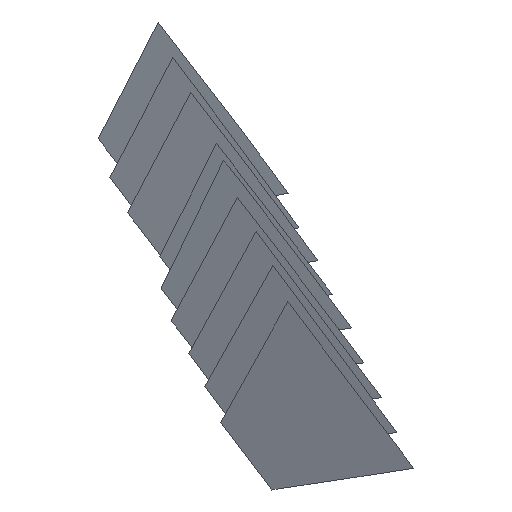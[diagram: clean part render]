
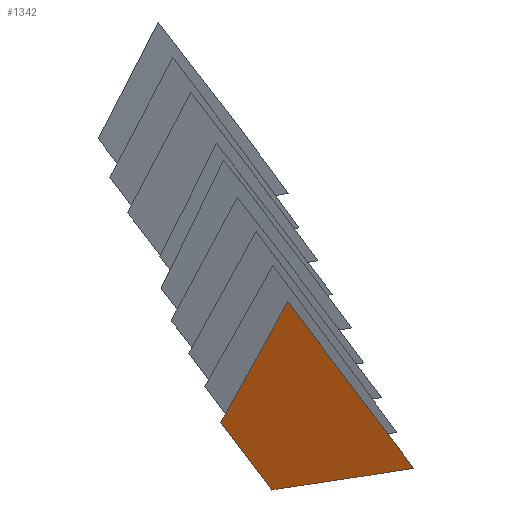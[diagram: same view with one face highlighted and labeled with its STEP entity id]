
A CAD part, left-side view. The second image highlights one B-rep face of the part: STEP entity #1342.
In plain terms, the highlighted free-form (B-spline) face has degree [1, 1] with [2, 2] control points.
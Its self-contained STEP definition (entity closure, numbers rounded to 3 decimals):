
#1342 = ADVANCED_FACE('',(#1343),#1356,.T.);
#1343 = FACE_BOUND('',#1344,.T.);
#1344 = EDGE_LOOP('',(#1345,#1366,#1380,#1394,#1408,#1422,#1436,#1450));
#1345 = ORIENTED_EDGE('',*,*,#1346,.T.);
#1346 = EDGE_CURVE('',#1347,#1349,#1351,.T.);
#1347 = VERTEX_POINT('',#1348);
#1348 = CARTESIAN_POINT('',(1227.961,-1852.653,
    1256.333));
#1349 = VERTEX_POINT('',#1350);
#1350 = CARTESIAN_POINT('',(1229.797,-1854.715,
    1253.616));
#1351 = SURFACE_CURVE('',#1352,(#1355),.PCURVE_S1.);
#1352 = B_SPLINE_CURVE_WITH_KNOTS('',1,(#1353,#1354),.UNSPECIFIED.,.F.,
  .F.,(2,2),(0.,3.873),.PIECEWISE_BEZIER_KNOTS.);
#1353 = CARTESIAN_POINT('',(1227.961,-1852.653,
    1256.333));
#1354 = CARTESIAN_POINT('',(1229.797,-1854.715,
    1253.616));
#1355 = PCURVE('',#1356,#1361);
#1356 = B_SPLINE_SURFACE_WITH_KNOTS('',1,1,(
    (#1357,#1358)
    ,(#1359,#1360
    )),.UNSPECIFIED.,.F.,.F.,.F.,(2,2),(2,2),(-5.211,
    3.314),(-3.65,3.937),
  .PIECEWISE_BEZIER_KNOTS.);
#1357 = CARTESIAN_POINT('',(1225.503,-1852.177,
    1260.708));
#1358 = CARTESIAN_POINT('',(1226.166,-1859.642,
    1261.893));
#1359 = CARTESIAN_POINT('',(1229.66,-1852.982,
    1253.308));
#1360 = CARTESIAN_POINT('',(1230.324,-1860.447,
    1254.493));
#1361 = DEFINITIONAL_REPRESENTATION('',(#1362),#1365);
#1362 = B_SPLINE_CURVE_WITH_KNOTS('',1,(#1363,#1364),.UNSPECIFIED.,.F.,
  .F.,(2,2),(0.,3.873),.PIECEWISE_BEZIER_KNOTS.);
#1363 = CARTESIAN_POINT('',(-0.17,-3.65));
#1364 = CARTESIAN_POINT('',(3.277,-1.886));
#1365 = ( GEOMETRIC_REPRESENTATION_CONTEXT(2) 
PARAMETRIC_REPRESENTATION_CONTEXT() REPRESENTATION_CONTEXT('2D SPACE',''
  ) );
#1366 = ORIENTED_EDGE('',*,*,#1367,.T.);
#1367 = EDGE_CURVE('',#1349,#1368,#1370,.T.);
#1368 = VERTEX_POINT('',#1369);
#1369 = CARTESIAN_POINT('',(1229.833,-1855.113,
    1253.678));
#1370 = SURFACE_CURVE('',#1371,(#1374),.PCURVE_S1.);
#1371 = B_SPLINE_CURVE_WITH_KNOTS('',1,(#1372,#1373),.UNSPECIFIED.,.F.,
  .F.,(2,2),(0.,0.405),.PIECEWISE_BEZIER_KNOTS.);
#1372 = CARTESIAN_POINT('',(1229.797,-1854.715,
    1253.616));
#1373 = CARTESIAN_POINT('',(1229.833,-1855.113,
    1253.678));
#1374 = PCURVE('',#1356,#1375);
#1375 = DEFINITIONAL_REPRESENTATION('',(#1376),#1379);
#1376 = B_SPLINE_CURVE_WITH_KNOTS('',1,(#1377,#1378),.UNSPECIFIED.,.F.,
  .F.,(2,2),(0.,0.405),.PIECEWISE_BEZIER_KNOTS.);
#1377 = CARTESIAN_POINT('',(3.277,-1.886));
#1378 = CARTESIAN_POINT('',(3.279,-1.481));
#1379 = ( GEOMETRIC_REPRESENTATION_CONTEXT(2) 
PARAMETRIC_REPRESENTATION_CONTEXT() REPRESENTATION_CONTEXT('2D SPACE',''
  ) );
#1380 = ORIENTED_EDGE('',*,*,#1381,.T.);
#1381 = EDGE_CURVE('',#1368,#1382,#1384,.T.);
#1382 = VERTEX_POINT('',#1383);
#1383 = CARTESIAN_POINT('',(1230.015,-1857.087,
    1253.978));
#1384 = SURFACE_CURVE('',#1385,(#1388),.PCURVE_S1.);
#1385 = B_SPLINE_CURVE_WITH_KNOTS('',1,(#1386,#1387),.UNSPECIFIED.,.F.,
  .F.,(2,2),(0.,2.005),.PIECEWISE_BEZIER_KNOTS.);
#1386 = CARTESIAN_POINT('',(1229.833,-1855.113,
    1253.678));
#1387 = CARTESIAN_POINT('',(1230.015,-1857.087,
    1253.978));
#1388 = PCURVE('',#1356,#1389);
#1389 = DEFINITIONAL_REPRESENTATION('',(#1390),#1393);
#1390 = B_SPLINE_CURVE_WITH_KNOTS('',1,(#1391,#1392),.UNSPECIFIED.,.F.,
  .F.,(2,2),(0.,2.005),.PIECEWISE_BEZIER_KNOTS.);
#1391 = CARTESIAN_POINT('',(3.279,-1.481));
#1392 = CARTESIAN_POINT('',(3.294,0.524));
#1393 = ( GEOMETRIC_REPRESENTATION_CONTEXT(2) 
PARAMETRIC_REPRESENTATION_CONTEXT() REPRESENTATION_CONTEXT('2D SPACE',''
  ) );
#1394 = ORIENTED_EDGE('',*,*,#1395,.T.);
#1395 = EDGE_CURVE('',#1382,#1396,#1398,.T.);
#1396 = VERTEX_POINT('',#1397);
#1397 = CARTESIAN_POINT('',(1230.2,-1859.061,
    1254.275));
#1398 = SURFACE_CURVE('',#1399,(#1402),.PCURVE_S1.);
#1399 = B_SPLINE_CURVE_WITH_KNOTS('',1,(#1400,#1401),.UNSPECIFIED.,.F.,
  .F.,(2,2),(0.,2.005),.PIECEWISE_BEZIER_KNOTS.);
#1400 = CARTESIAN_POINT('',(1230.015,-1857.087,
    1253.978));
#1401 = CARTESIAN_POINT('',(1230.2,-1859.061,
    1254.275));
#1402 = PCURVE('',#1356,#1403);
#1403 = DEFINITIONAL_REPRESENTATION('',(#1404),#1407);
#1404 = B_SPLINE_CURVE_WITH_KNOTS('',1,(#1405,#1406),.UNSPECIFIED.,.F.,
  .F.,(2,2),(0.,2.005),.PIECEWISE_BEZIER_KNOTS.);
#1405 = CARTESIAN_POINT('',(3.294,0.524));
#1406 = CARTESIAN_POINT('',(3.313,2.529));
#1407 = ( GEOMETRIC_REPRESENTATION_CONTEXT(2) 
PARAMETRIC_REPRESENTATION_CONTEXT() REPRESENTATION_CONTEXT('2D SPACE',''
  ) );
#1408 = ORIENTED_EDGE('',*,*,#1409,.T.);
#1409 = EDGE_CURVE('',#1396,#1410,#1412,.T.);
#1410 = VERTEX_POINT('',#1411);
#1411 = CARTESIAN_POINT('',(1230.324,-1860.447,
    1254.493));
#1412 = SURFACE_CURVE('',#1413,(#1416),.PCURVE_S1.);
#1413 = B_SPLINE_CURVE_WITH_KNOTS('',1,(#1414,#1415),.UNSPECIFIED.,.F.,
  .F.,(2,2),(0.,1.409),.PIECEWISE_BEZIER_KNOTS.);
#1414 = CARTESIAN_POINT('',(1230.2,-1859.061,
    1254.275));
#1415 = CARTESIAN_POINT('',(1230.324,-1860.447,
    1254.493));
#1416 = PCURVE('',#1356,#1417);
#1417 = DEFINITIONAL_REPRESENTATION('',(#1418),#1421);
#1418 = B_SPLINE_CURVE_WITH_KNOTS('',1,(#1419,#1420),.UNSPECIFIED.,.F.,
  .F.,(2,2),(0.,1.409),.PIECEWISE_BEZIER_KNOTS.);
#1419 = CARTESIAN_POINT('',(3.313,2.529));
#1420 = CARTESIAN_POINT('',(3.314,3.937));
#1421 = ( GEOMETRIC_REPRESENTATION_CONTEXT(2) 
PARAMETRIC_REPRESENTATION_CONTEXT() REPRESENTATION_CONTEXT('2D SPACE',''
  ) );
#1422 = ORIENTED_EDGE('',*,*,#1423,.T.);
#1423 = EDGE_CURVE('',#1410,#1424,#1426,.T.);
#1424 = VERTEX_POINT('',#1425);
#1425 = CARTESIAN_POINT('',(1229.155,-1859.148,
    1256.227));
#1426 = SURFACE_CURVE('',#1427,(#1430),.PCURVE_S1.);
#1427 = B_SPLINE_CURVE_WITH_KNOTS('',1,(#1428,#1429),.UNSPECIFIED.,.F.,
  .F.,(2,2),(0.,2.462),.PIECEWISE_BEZIER_KNOTS.);
#1428 = CARTESIAN_POINT('',(1230.324,-1860.447,
    1254.493));
#1429 = CARTESIAN_POINT('',(1229.155,-1859.148,
    1256.227));
#1430 = PCURVE('',#1356,#1431);
#1431 = DEFINITIONAL_REPRESENTATION('',(#1432),#1435);
#1432 = B_SPLINE_CURVE_WITH_KNOTS('',1,(#1433,#1434),.UNSPECIFIED.,.F.,
  .F.,(2,2),(0.,2.462),.PIECEWISE_BEZIER_KNOTS.);
#1433 = CARTESIAN_POINT('',(3.314,3.937));
#1434 = CARTESIAN_POINT('',(1.117,2.827));
#1435 = ( GEOMETRIC_REPRESENTATION_CONTEXT(2) 
PARAMETRIC_REPRESENTATION_CONTEXT() REPRESENTATION_CONTEXT('2D SPACE',''
  ) );
#1436 = ORIENTED_EDGE('',*,*,#1437,.T.);
#1437 = EDGE_CURVE('',#1424,#1438,#1440,.T.);
#1438 = VERTEX_POINT('',#1439);
#1439 = CARTESIAN_POINT('',(1225.786,-1855.364,
    1261.214));
#1440 = SURFACE_CURVE('',#1441,(#1444),.PCURVE_S1.);
#1441 = B_SPLINE_CURVE_WITH_KNOTS('',1,(#1442,#1443),.UNSPECIFIED.,.F.,
  .F.,(2,2),(0.,7.108),.PIECEWISE_BEZIER_KNOTS.);
#1442 = CARTESIAN_POINT('',(1229.155,-1859.148,
    1256.227));
#1443 = CARTESIAN_POINT('',(1225.786,-1855.364,
    1261.214));
#1444 = PCURVE('',#1356,#1445);
#1445 = DEFINITIONAL_REPRESENTATION('',(#1446),#1449);
#1446 = B_SPLINE_CURVE_WITH_KNOTS('',1,(#1447,#1448),.UNSPECIFIED.,.F.,
  .F.,(2,2),(0.,7.108),.PIECEWISE_BEZIER_KNOTS.);
#1447 = CARTESIAN_POINT('',(1.117,2.827));
#1448 = CARTESIAN_POINT('',(-5.211,-0.411));
#1449 = ( GEOMETRIC_REPRESENTATION_CONTEXT(2) 
PARAMETRIC_REPRESENTATION_CONTEXT() REPRESENTATION_CONTEXT('2D SPACE',''
  ) );
#1450 = ORIENTED_EDGE('',*,*,#1451,.T.);
#1451 = EDGE_CURVE('',#1438,#1347,#1452,.T.);
#1452 = SURFACE_CURVE('',#1453,(#1456),.PCURVE_S1.);
#1453 = B_SPLINE_CURVE_WITH_KNOTS('',1,(#1454,#1455),.UNSPECIFIED.,.F.,
  .F.,(2,2),(0.,5.992),.PIECEWISE_BEZIER_KNOTS.);
#1454 = CARTESIAN_POINT('',(1225.786,-1855.364,
    1261.214));
#1455 = CARTESIAN_POINT('',(1227.961,-1852.653,
    1256.333));
#1456 = PCURVE('',#1356,#1457);
#1457 = DEFINITIONAL_REPRESENTATION('',(#1458),#1461);
#1458 = B_SPLINE_CURVE_WITH_KNOTS('',1,(#1459,#1460),.UNSPECIFIED.,.F.,
  .F.,(2,2),(0.,5.992),.PIECEWISE_BEZIER_KNOTS.);
#1459 = CARTESIAN_POINT('',(-5.211,-0.411));
#1460 = CARTESIAN_POINT('',(-0.17,-3.65));
#1461 = ( GEOMETRIC_REPRESENTATION_CONTEXT(2) 
PARAMETRIC_REPRESENTATION_CONTEXT() REPRESENTATION_CONTEXT('2D SPACE',''
  ) );
